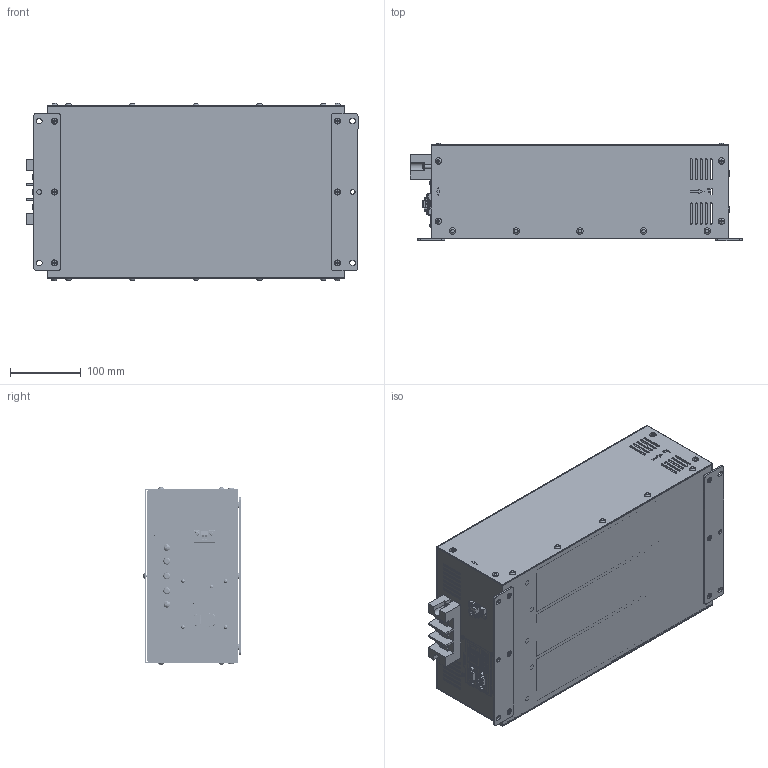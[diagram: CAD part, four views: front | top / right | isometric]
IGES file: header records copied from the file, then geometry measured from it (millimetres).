
Global section: file name: VX3COM; native system: Autodesk Inventor 2021; preprocessor: unknown; author: eunsol jang; date: 20230905.110902; units: inch
Bounding box: 468 x 137.59 x 250.09 mm (x, y, z)
Volume: 9665132.8 mm3; surface area: 1213174.4 mm2
Topology: 13 solids, 13 shells, 4467 faces, 13341 edges, 9253 vertices
Faces by surface type: bspline 4467
